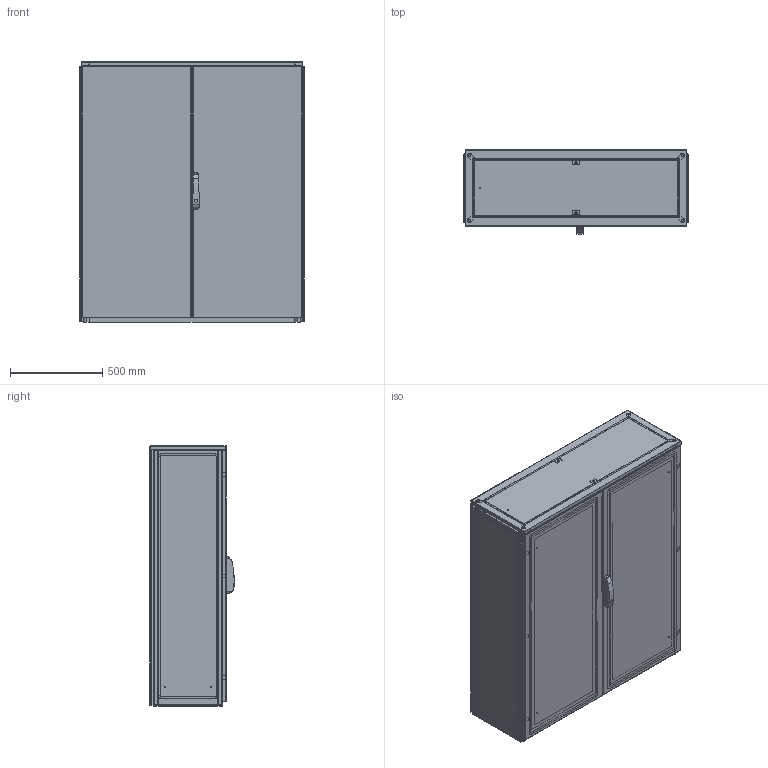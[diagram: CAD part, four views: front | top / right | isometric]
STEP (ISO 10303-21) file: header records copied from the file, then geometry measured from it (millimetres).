
FILE_DESCRIPTION(/* description */ ('STEP AP214'),/* implementation_level */ '2;1');
FILE_NAME(/* name */ 'ENUX121404PR -LOD350',/* time_stamp */ '2025-10-06T08:53:19+02:00',/* author */ ('License CC BY-ND 4.0'),/* organization */ ('CADENAS'),/* preprocessor_version */ 'ST-DEVELOPER v19.3',/* originating_system */ 'PARTsolutions',/* authorisation */ ' ');
FILE_SCHEMA (('AUTOMOTIVE_DESIGN {1 0 10303 214 3 1 1}'));
Length unit declared in the file: millimetre
Products named in the file (11): ENUX121404PR  -LOD350; ENUX121404PR  -LOD3501; ENUX121404PR  -LOD3507; ENUX121404PR  -LOD3502; ENUX121404PR  -LOD35011; ENUX121404PR  -LOD3503; ENUX121404PR  -LOD3508; ENUX121404PR  -LOD3505; ENUX121404PR  -LOD3504; ENUX121404PR  -LOD35010; ENUX121404PR  -LOD3509
Assembly tree (15 placements, depth 2):
  ENUX121404PR  -LOD350
    ENUX121404PR  -LOD3501
    ENUX121404PR  -LOD3507  x2
    ENUX121404PR  -LOD3502
    ENUX121404PR  -LOD35011
    ENUX121404PR  -LOD3503
    ENUX121404PR  -LOD3508
    ENUX121404PR  -LOD3505
    ENUX121404PR  -LOD3504
    ENUX121404PR  -LOD35010  x4
    ENUX121404PR  -LOD3509  x2
Bounding box: 1212 x 457 x 1408.5 mm (x, y, z)
Volume: 22152201.5 mm3; surface area: 16755946.3 mm2
Topology: 15 solids, 22 shells, 1414 faces, 3793 edges, 2476 vertices
Faces by surface type: plane 840, cylinder 524, torus 30, cone 12, sphere 8
Full cylindrical faces by diameter (mm): 6 x15, 9 x13, 12 x4, 14 x2, 17 x2, 28 x2
Entity records: 36142 total; most frequent: CARTESIAN_POINT 6619, DIRECTION 6135, ORIENTED_EDGE 6046, EDGE_CURVE 3023, AXIS2_PLACEMENT_3D 2047, LINE 2041, VECTOR 2041, VERTEX_POINT 1998
